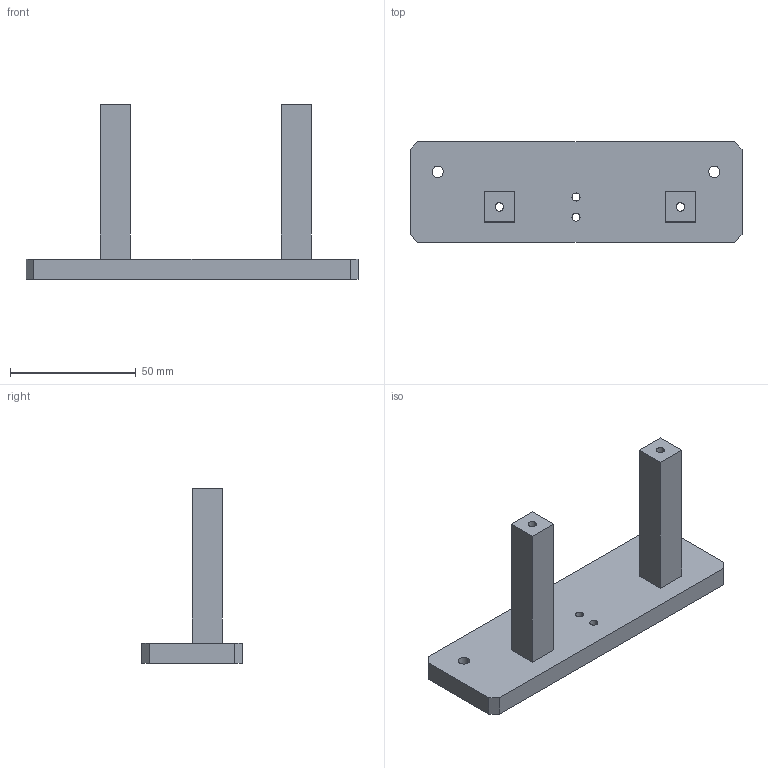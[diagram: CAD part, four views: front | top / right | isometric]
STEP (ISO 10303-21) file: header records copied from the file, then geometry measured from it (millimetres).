
FILE_DESCRIPTION (( 'STEP AP203' ), '1' );
FILE_NAME ('09_fixed_receiver_arm.step', '2026-10-06T17:27:45', ( '' ), ( '' ), 'SwSTEP 2.0', 'SolidWorks 2025', '' );
FILE_SCHEMA (( 'CONFIG_CONTROL_DESIGN' ));
Length unit declared in the file: millimetre
Products named in the file (1): 09_fixed_receiver_arm
Bounding box: 132 x 40 x 69.3 mm (x, y, z)
Volume: 58108.9 mm3; surface area: 20839.9 mm2
Topology: 1 solids, 1 shells, 32 faces, 84 edges, 56 vertices
Faces by surface type: plane 20, cylinder 12
Entity records: 1093 total; most frequent: DIRECTION 174, CARTESIAN_POINT 173, ORIENTED_EDGE 168, EDGE_CURVE 84, LINE 60, VECTOR 60, AXIS2_PLACEMENT_3D 57, VERTEX_POINT 56
